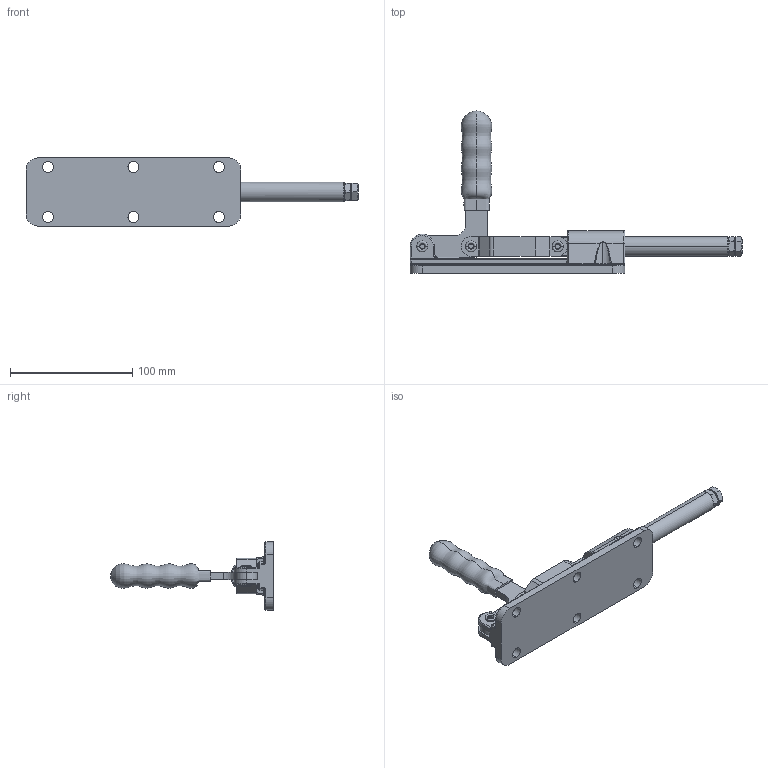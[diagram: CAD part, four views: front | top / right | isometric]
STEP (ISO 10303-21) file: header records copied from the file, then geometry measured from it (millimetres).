
FILE_DESCRIPTION (( 'STEP AP203' ), '1' );
FILE_NAME ('SK3-36080C.STEP', '2018-11-01T08:57:16', ( 'admin' ), ( 'Microsoft' ), 'SwSTEP 2.0', 'SolidWorks 2015', '' );
FILE_SCHEMA (( 'CONFIG_CONTROL_DESIGN' ));
Length unit declared in the file: millimetre
Products named in the file (9): SK3-36080C.2; SK3-36080C.3; SK3-36080C.參忒; SK3-36080C.蹟隊; M8 1.25鼠備酗僅5; SK3-36080C.蹟隊苤; SK3-36080C; SK3-36080C.1
Assembly tree (11 placements, depth 2):
  SK3-36080C
    SK3-36080C
    SK3-36080C.1  x2
    SK3-36080C.2
    SK3-36080C.3
    SK3-36080C.參忒
    SK3-36080C.蹟隊
    M8 1.25鼠備酗僅5
    SK3-36080C.蹟隊苤  x3
Bounding box: 272 x 133.25 x 56 mm (x, y, z)
Volume: 179003.7 mm3; surface area: 67611.7 mm2
Topology: 11 solids, 11 shells, 398 faces, 950 edges, 572 vertices
Faces by surface type: cylinder 176, plane 127, cone 36, torus 35, bspline 20, sphere 4
Entity records: 44408 total; most frequent: CARTESIAN_POINT 35996, ORIENTED_EDGE 1578, DIRECTION 1528, EDGE_CURVE 789, AXIS2_PLACEMENT_3D 599, VERTEX_POINT 486, EDGE_LOOP 357, LINE 330
